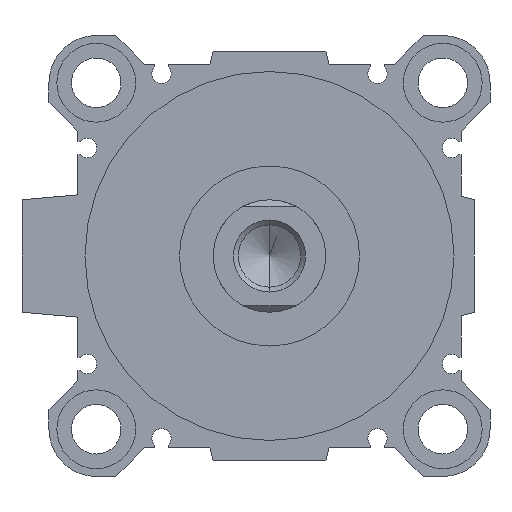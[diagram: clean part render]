
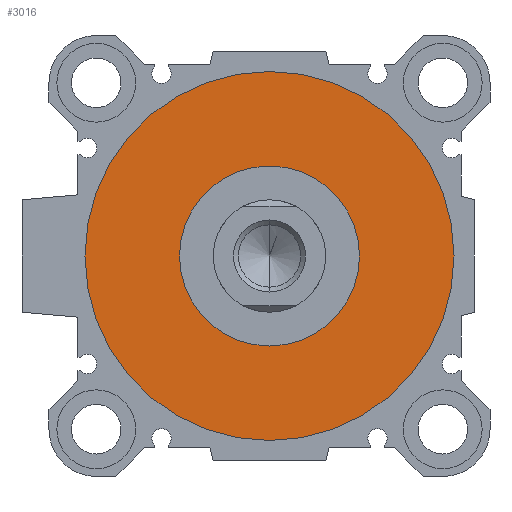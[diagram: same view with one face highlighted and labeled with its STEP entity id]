
A CAD part, left-side view. The second image highlights one B-rep face of the part: STEP entity #3016.
In plain terms, the highlighted planar face has unit normal (-1, 0, 0).
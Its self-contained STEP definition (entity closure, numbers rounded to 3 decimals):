
#24 = AXIS2_PLACEMENT_3D ( 'NONE', #5070, #783, #4142 ) ;
#286 = CARTESIAN_POINT ( 'NONE',  ( 5., 0., 20. ) ) ;
#322 = CARTESIAN_POINT ( 'NONE',  ( 5., 0., -20. ) ) ;
#353 = ORIENTED_EDGE ( 'NONE', *, *, #3238, .T. ) ;
#532 = CARTESIAN_POINT ( 'NONE',  ( 5., 0., 0. ) ) ;
#546 = AXIS2_PLACEMENT_3D ( 'NONE', #5087, #1809, #2989 ) ;
#783 = DIRECTION ( 'NONE',  ( 1., 0., 0. ) ) ;
#827 = CARTESIAN_POINT ( 'NONE',  ( 5., 0., 0. ) ) ;
#1264 = VERTEX_POINT ( 'NONE', #322 ) ;
#1411 = CIRCLE ( 'NONE', #546, 20. ) ;
#1457 = DIRECTION ( 'NONE',  ( 1., 0., 0. ) ) ;
#1652 = DIRECTION ( 'NONE',  ( 1., 0., 0. ) ) ;
#1732 = CARTESIAN_POINT ( 'NONE',  ( 5., 0., -41. ) ) ;
#1809 = DIRECTION ( 'NONE',  ( 1., 0., 0. ) ) ;
#1815 = DIRECTION ( 'NONE',  ( 0., 1., 0. ) ) ;
#1999 = ORIENTED_EDGE ( 'NONE', *, *, #4557, .F. ) ;
#2054 = AXIS2_PLACEMENT_3D ( 'NONE', #2387, #1457, #4082 ) ;
#2076 = VERTEX_POINT ( 'NONE', #2388 ) ;
#2116 = CIRCLE ( 'NONE', #24, 41. ) ;
#2387 = CARTESIAN_POINT ( 'NONE',  ( 5., 0., 0. ) ) ;
#2388 = CARTESIAN_POINT ( 'NONE',  ( 5., 0., 41. ) ) ;
#2855 = DIRECTION ( 'NONE',  ( 0., 0., -1. ) ) ;
#2989 = DIRECTION ( 'NONE',  ( 0., 0., -1. ) ) ;
#3016 = ADVANCED_FACE ( 'NONE', ( #4677, #3051 ), #4302, .F. ) ;
#3051 = FACE_BOUND ( 'NONE', #5423, .T. ) ;
#3134 = VERTEX_POINT ( 'NONE', #286 ) ;
#3213 = EDGE_LOOP ( 'NONE', ( #1999, #3800 ) ) ;
#3238 = EDGE_CURVE ( 'NONE', #1264, #3134, #3910, .T. ) ;
#3444 = VERTEX_POINT ( 'NONE', #1732 ) ;
#3456 = EDGE_CURVE ( 'NONE', #3134, #1264, #1411, .T. ) ;
#3715 = ORIENTED_EDGE ( 'NONE', *, *, #3456, .T. ) ;
#3800 = ORIENTED_EDGE ( 'NONE', *, *, #4105, .F. ) ;
#3910 = CIRCLE ( 'NONE', #2054, 20. ) ;
#3935 = DIRECTION ( 'NONE',  ( 1., 0., 0. ) ) ;
#4082 = DIRECTION ( 'NONE',  ( 0., 0., -1. ) ) ;
#4105 = EDGE_CURVE ( 'NONE', #3444, #2076, #2116, .T. ) ;
#4142 = DIRECTION ( 'NONE',  ( 0., 0., -1. ) ) ;
#4192 = AXIS2_PLACEMENT_3D ( 'NONE', #827, #1652, #2855 ) ;
#4302 = PLANE ( 'NONE',  #5222 ) ;
#4557 = EDGE_CURVE ( 'NONE', #2076, #3444, #5243, .T. ) ;
#4677 = FACE_OUTER_BOUND ( 'NONE', #3213, .T. ) ;
#5070 = CARTESIAN_POINT ( 'NONE',  ( 5., 0., 0. ) ) ;
#5087 = CARTESIAN_POINT ( 'NONE',  ( 5., 0., 0. ) ) ;
#5222 = AXIS2_PLACEMENT_3D ( 'NONE', #532, #3935, #1815 ) ;
#5243 = CIRCLE ( 'NONE', #4192, 41. ) ;
#5423 = EDGE_LOOP ( 'NONE', ( #3715, #353 ) ) ;
